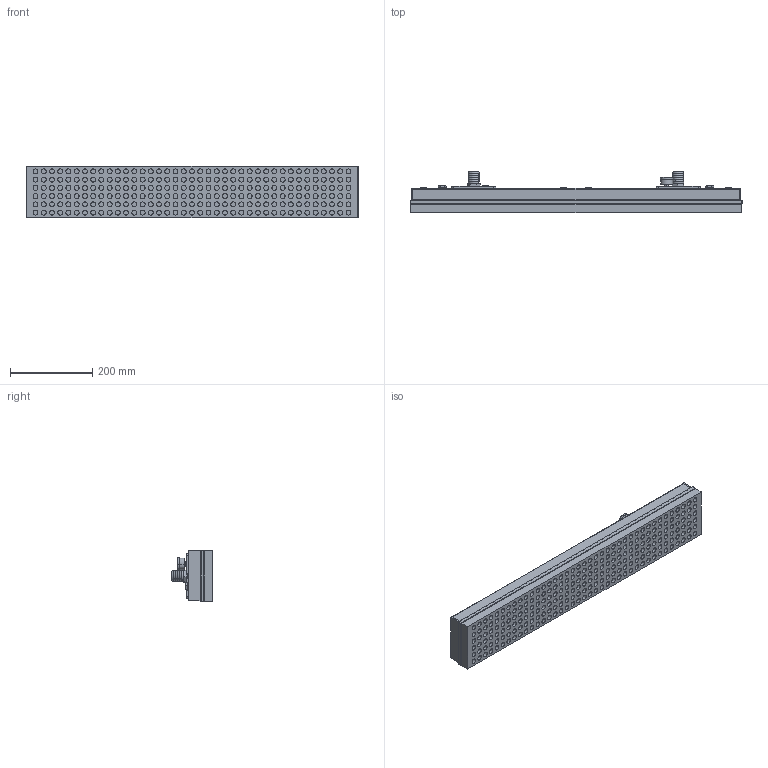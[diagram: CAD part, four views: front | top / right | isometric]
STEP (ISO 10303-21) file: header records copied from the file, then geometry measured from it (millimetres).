
FILE_DESCRIPTION (( 'STEP AP214' ), '1' );
FILE_NAME ('3-9-15420-1.STEP', '2012-08-31T09:16:30', ( 'cad' ), ( 'Microsoft' ), 'SwSTEP 2.0', 'SolidWorks 2012', '' );
FILE_SCHEMA (( 'AUTOMOTIVE_DESIGN' ));
Length unit declared in the file: millimetre
Products named in the file (1): 3-9-15420-1
Bounding box: 806 x 101 x 126 mm (x, y, z)
Volume: 5400089.4 mm3; surface area: 558271.9 mm2
Topology: 1 solids, 1 shells, 1088 faces, 2305 edges, 1498 vertices
Faces by surface type: cylinder 550, plane 438, cone 64, bspline 20, torus 16
Entity records: 40111 total; most frequent: CARTESIAN_POINT 6364, DIRECTION 5551, ORIENTED_EDGE 4610, EDGE_CURVE 2305, AXIS2_PLACEMENT_3D 2293, VERTEX_POINT 1498, EDGE_LOOP 1367, CIRCLE 1224
